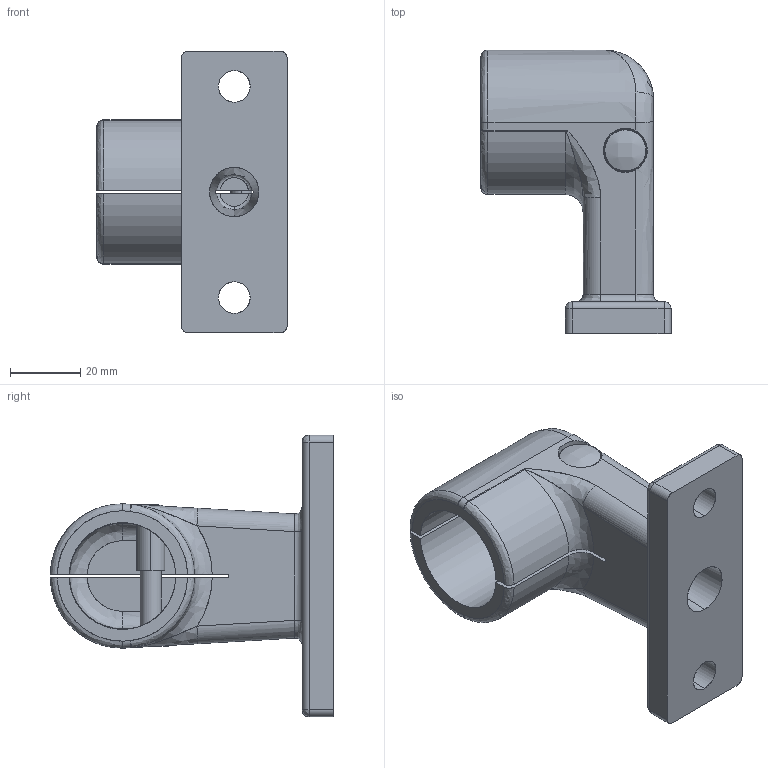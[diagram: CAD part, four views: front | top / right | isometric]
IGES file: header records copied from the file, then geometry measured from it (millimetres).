
Start section: SolidWorks IGES file using analytic representation for surfaces
Global section: file name: C:\Users\Gerard\OneDrive - Tecnodin, S.L\Escritorio\30 mm Verbinder im step. Format\31000410046.IGS; native system: SolidWorks 2016; preprocessor: SolidWorks 2016; author: Gerard; date: 240902.113243; units: millimetre
Bounding box: 54 x 80.49 x 80 mm (x, y, z)
Surface area: 26391.6 mm2 (no closed solid volume)
Topology: 0 solids, 0 shells, 148 faces, 2181 edges, 2171 vertices
Faces by surface type: bspline 75, revolution 73
